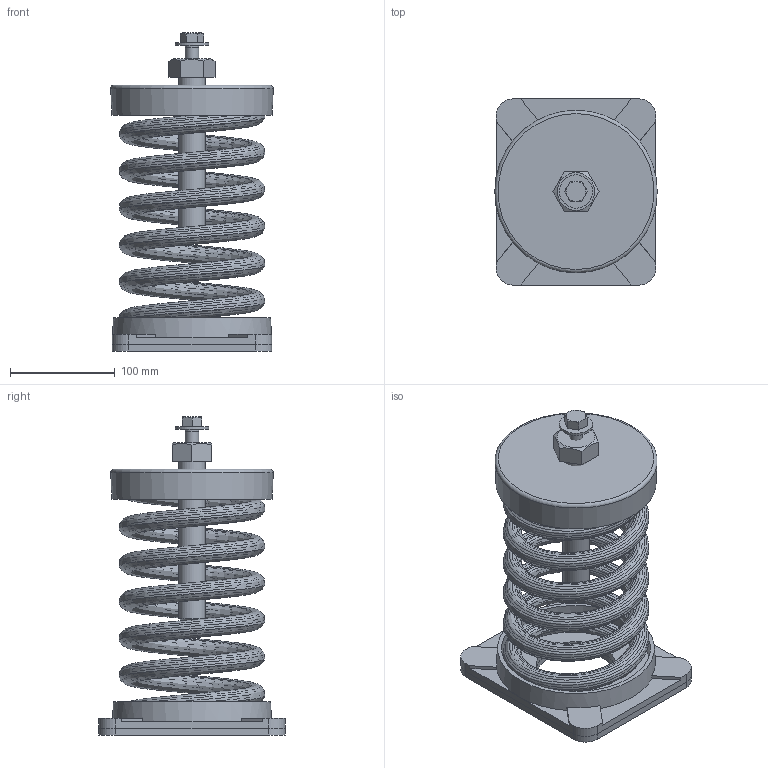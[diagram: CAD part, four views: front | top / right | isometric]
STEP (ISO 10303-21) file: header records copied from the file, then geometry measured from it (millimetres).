
FILE_DESCRIPTION(/* description */ (''),/* implementation_level */ '2;1');
FILE_NAME(/* name */ 'C:\001_Work\Designs\SLF ASSEMBLIES\SLF-133.stp',/* time_stamp */ '2016-01-10T15:44:55-05:00',/* author */ ('rramoutar'),/* organization */ ('Mason Industries Inc.'),/* preprocessor_version */ 'ST-DEVELOPER v15.6',/* originating_system */ 'Autodesk Inventor 2015',/* authorisation */ '');
FILE_SCHEMA (('CONFIG_CONTROL_DESIGN'));
Length unit declared in the file: inch
Products named in the file (1): SLF-133
Bounding box: 155.3 x 177.8 x 303.89 mm (x, y, z)
Volume: 759060.5 mm3; surface area: 471950.2 mm2
Topology: 7 solids, 7 shells, 181 faces, 428 edges, 271 vertices
Faces by surface type: plane 112, cylinder 25, bspline 22, cone 20, torus 2
Full cylindrical faces by diameter (mm): 10.592 x1, 12.7 x5, 13.487 x1, 19.05 x1, 22.225 x1, 25.4 x1, 31.75 x1, 76.2 x2, 142.081 x1, 143.669 x1
Entity records: 16933 total; most frequent: CARTESIAN_POINT 12847, ORIENTED_EDGE 804, DIRECTION 722, EDGE_CURVE 402, VERTEX_POINT 268, AXIS2_PLACEMENT_3D 258, EDGE_LOOP 224, LINE 206
